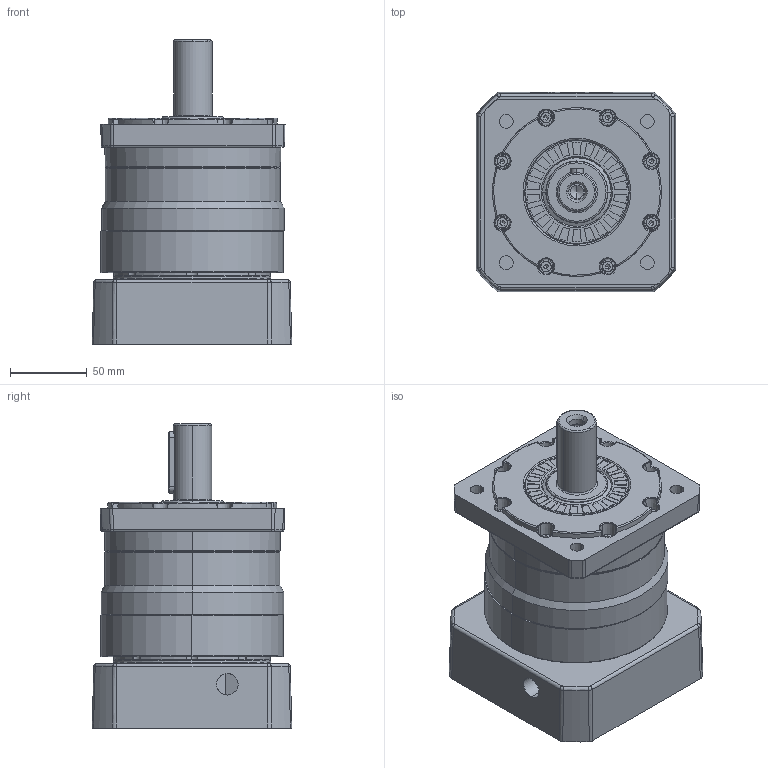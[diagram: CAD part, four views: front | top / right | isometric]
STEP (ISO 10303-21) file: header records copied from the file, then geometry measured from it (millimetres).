
FILE_DESCRIPTION (( 'STEP AP214' ), '1' );
FILE_NAME ('FB120-L1-S2-P2 22-110-145-M8.STEP', '2021-04-23T07:01:06', ( 'Microsoft' ), ( 'Microsoft China' ), 'SwSTEP 2.0', 'SolidWorks 2016', '' );
FILE_SCHEMA (( 'AUTOMOTIVE_DESIGN' ));
Length unit declared in the file: millimetre
Products named in the file (14): M5-12樓粟菜; M4-10樓粟菜; 蚐猾40x68x8; 输入太阳齿轮FB115D-22; 输入锁紧环26X63.5X16; 怀堤俴陎殤FB115D-25X50XM10; 镂空输入法兰-110X44.5XM8; 输入端壳体FB110D; 怀堤傷褲极FB120; 内齿圈FG120; FB120-L1-S2-P2 22-110-145-M8; す瑩8X40; M8-16; M6-14樓粟菜
Assembly tree (32 placements, depth 2):
  FB120-L1-S2-P2 22-110-145-M8
    内齿圈FG120
    怀堤傷褲极FB120
    输入端壳体FB110D
    镂空输入法兰-110X44.5XM8
    怀堤俴陎殤FB115D-25X50XM10
    输入锁紧环26X63.5X16
    输入太阳齿轮FB115D-22
    蚐猾40x68x8
    M4-10樓粟菜  x8
    M5-12樓粟菜  x8
    M6-14樓粟菜  x6
    M8-16
    す瑩8X40
Bounding box: 130 x 130 x 198 mm (x, y, z)
Volume: 1471143.2 mm3; surface area: 267586.8 mm2
Topology: 10 solids, 54 shells, 2130 faces, 5263 edges, 3253 vertices
Faces by surface type: plane 726, bspline 587, cylinder 425, cone 306, torus 86
Entity records: 88760 total; most frequent: CARTESIAN_POINT 36687, ORIENTED_EDGE 7808, DIRECTION 5812, EDGE_CURVE 3914, VERTEX_POINT 2435, AXIS2_PLACEMENT_3D 2155, EDGE_LOOP 1750, UNCERTAINTY_MEASURE_WITH_UNIT 1644
